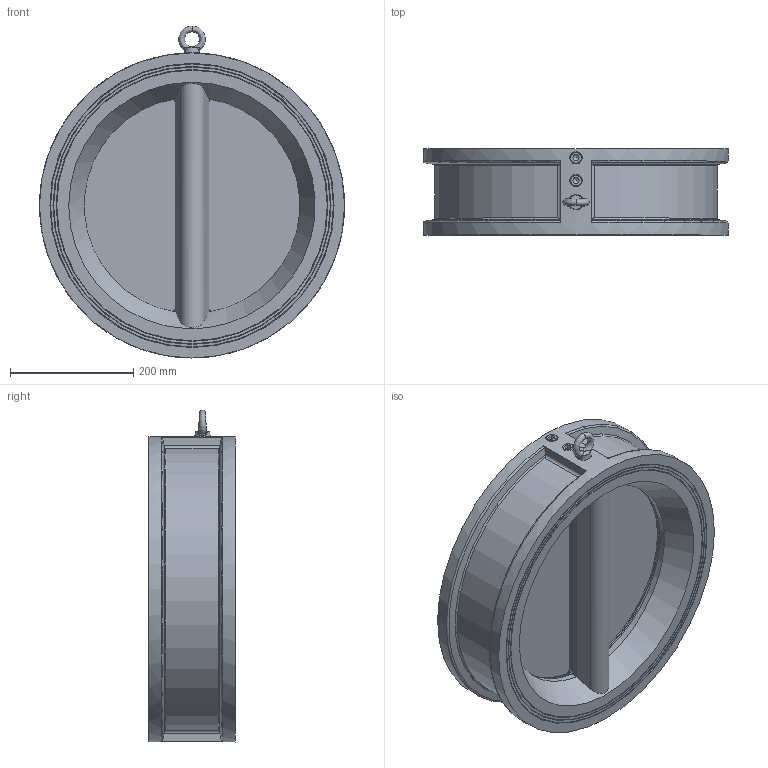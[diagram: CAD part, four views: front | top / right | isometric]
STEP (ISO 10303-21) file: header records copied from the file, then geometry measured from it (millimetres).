
FILE_DESCRIPTION (( 'STEP AP203' ), '1' );
FILE_NAME ('5306 DN400 ×°Åä PN16.STEP', '2025-07-22T02:53:33', ( '' ), ( '' ), 'SwSTEP 2.0', 'SolidWorks 2018', '' );
FILE_SCHEMA (( 'CONFIG_CONTROL_DESIGN' ));
Length unit declared in the file: millimetre
Products named in the file (7): GB╱T 825-1988[吊环螺钉M10]_M10; 5306 DN400 蚾饜 PN16; 5306 DN400 概极; 5306 DN400 概粣; 400蝶; GB╱T 77-2007[内六角平端紧定螺钉M20×20]_M20×20; 400詠啣
Assembly tree (11 placements, depth 2):
  5306 DN400 蚾饜 PN16
    5306 DN400 概极
    400蝶
    5306 DN400 概粣  x2
    GB╱T 77-2007[内六角平端紧定螺钉M20×20]_M20×20  x4
    GB╱T 825-1988[吊环螺钉M10]_M10
    400詠啣  x2
Bounding box: 495 x 140 x 538.6 mm (x, y, z)
Volume: 10949344.5 mm3; surface area: 1114269.8 mm2
Topology: 12 solids, 12 shells, 261 faces, 606 edges, 373 vertices
Faces by surface type: plane 123, cylinder 64, cone 43, bspline 20, torus 11
Full cylindrical faces by diameter (mm): 8.5 x1, 10 x1, 15 x1, 17 x6, 17.5 x4, 20 x4, 42 x4, 410 x1, 495 x1
Entity records: 8356 total; most frequent: CARTESIAN_POINT 3969, DIRECTION 712, ORIENTED_EDGE 670, EDGE_CURVE 335, AXIS2_PLACEMENT_3D 300, EDGE_LOOP 248, VERTEX_POINT 235, FACE_OUTER_BOUND 192
